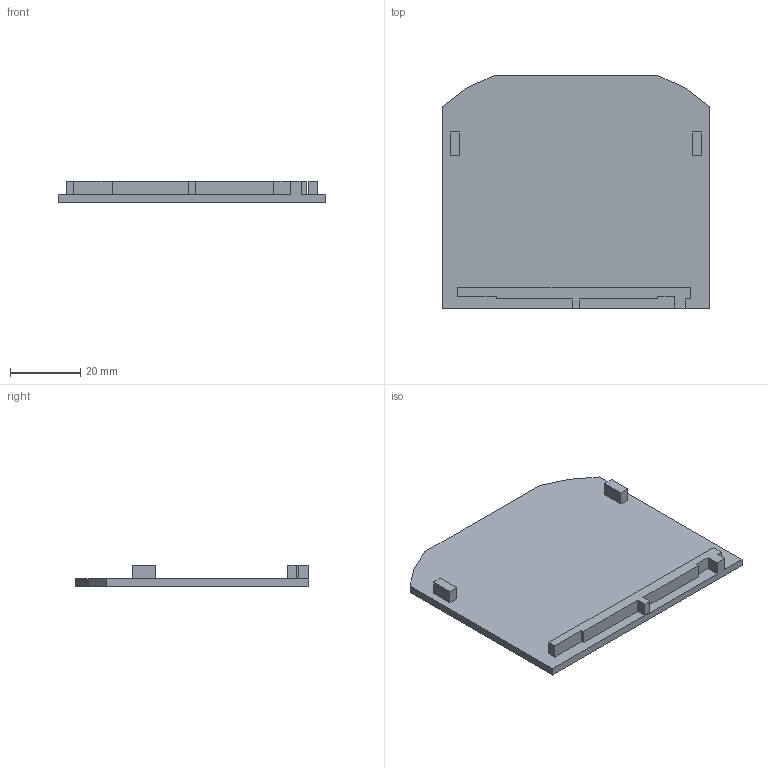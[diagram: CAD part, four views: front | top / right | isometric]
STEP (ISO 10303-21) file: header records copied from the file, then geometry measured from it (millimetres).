
FILE_DESCRIPTION (( 'STEP AP203' ), '1' );
FILE_NAME ('sak-70-35 Çàãëóøêà äëÿ JXB-70-35.STEP', '2017-02-15T11:12:20', ( 'kuryshev' ), ( '' ), 'SwSTEP 2.0', 'SolidWorks 2010', '' );
FILE_SCHEMA (( 'CONFIG_CONTROL_DESIGN' ));
Length unit declared in the file: millimetre
Products named in the file (1): sak-70-35 Çàãëóøêà äëÿ JXB-70-35
Bounding box: 76 x 66.4 x 6.1 mm (x, y, z)
Volume: 11811.2 mm3; surface area: 11190 mm2
Topology: 1 solids, 1 shells, 36 faces, 96 edges, 64 vertices
Faces by surface type: plane 36
Entity records: 1177 total; most frequent: CARTESIAN_POINT 197, ORIENTED_EDGE 192, DIRECTION 170, EDGE_CURVE 96, LINE 96, VECTOR 96, VERTEX_POINT 64, EDGE_LOOP 38
